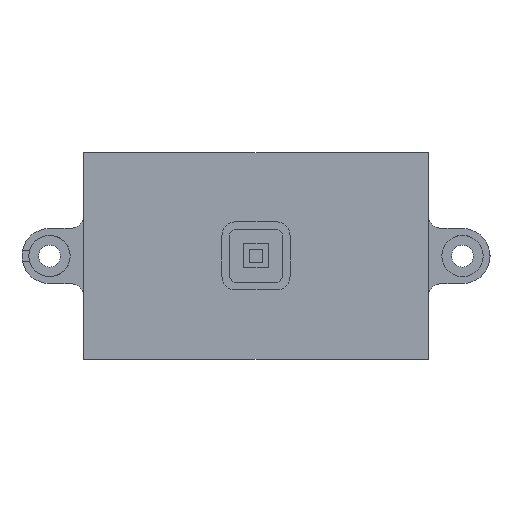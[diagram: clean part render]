
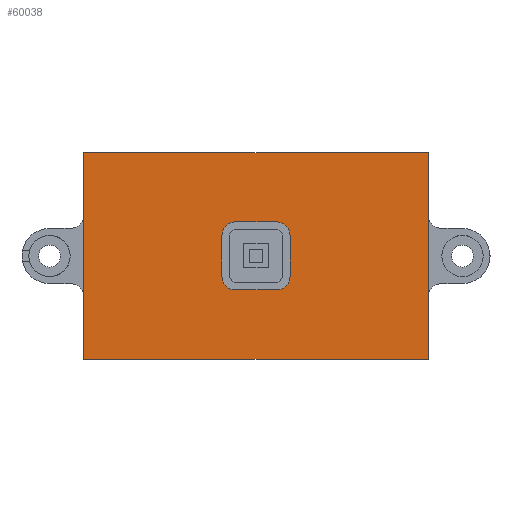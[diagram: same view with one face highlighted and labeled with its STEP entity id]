
A CAD part, top view. The second image highlights one B-rep face of the part: STEP entity #60038.
In plain terms, the highlighted planar face has unit normal (0, 0, 1).
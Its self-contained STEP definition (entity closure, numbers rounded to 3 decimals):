
#2558=FACE_BOUND('',#7841,.T.);
#2922=CIRCLE('',#66886,2.);
#2923=CIRCLE('',#66887,2.);
#2924=CIRCLE('',#66888,2.);
#2925=CIRCLE('',#66889,2.);
#5609=FACE_OUTER_BOUND('',#7840,.T.);
#7840=EDGE_LOOP('',(#46153,#46154,#46155,#46156));
#7841=EDGE_LOOP('',(#46157,#46158,#46159,#46160,#46161,#46162,#46163,#46164));
#10421=LINE('',#88032,#17187);
#10422=LINE('',#88034,#17188);
#10423=LINE('',#88036,#17189);
#10424=LINE('',#88037,#17190);
#10425=LINE('',#88042,#17191);
#10426=LINE('',#88046,#17192);
#10427=LINE('',#88050,#17193);
#10428=LINE('',#88053,#17194);
#17187=VECTOR('',#72065,30.);
#17188=VECTOR('',#72066,50.);
#17189=VECTOR('',#72067,30.);
#17190=VECTOR('',#72068,50.);
#17191=VECTOR('',#72071,5.9);
#17192=VECTOR('',#72074,5.9);
#17193=VECTOR('',#72077,5.9);
#17194=VECTOR('',#72080,5.9);
#24175=VERTEX_POINT('',#88030);
#24176=VERTEX_POINT('',#88031);
#24177=VERTEX_POINT('',#88033);
#24178=VERTEX_POINT('',#88035);
#24179=VERTEX_POINT('',#88038);
#24180=VERTEX_POINT('',#88039);
#24181=VERTEX_POINT('',#88041);
#24182=VERTEX_POINT('',#88043);
#24183=VERTEX_POINT('',#88045);
#24184=VERTEX_POINT('',#88047);
#24185=VERTEX_POINT('',#88049);
#24186=VERTEX_POINT('',#88051);
#35144=EDGE_CURVE('',#24175,#24176,#10421,.T.);
#35145=EDGE_CURVE('',#24176,#24177,#10422,.T.);
#35146=EDGE_CURVE('',#24177,#24178,#10423,.T.);
#35147=EDGE_CURVE('',#24178,#24175,#10424,.T.);
#35148=EDGE_CURVE('',#24179,#24180,#2922,.T.);
#35149=EDGE_CURVE('',#24180,#24181,#10425,.T.);
#35150=EDGE_CURVE('',#24181,#24182,#2923,.T.);
#35151=EDGE_CURVE('',#24182,#24183,#10426,.T.);
#35152=EDGE_CURVE('',#24183,#24184,#2924,.T.);
#35153=EDGE_CURVE('',#24184,#24185,#10427,.T.);
#35154=EDGE_CURVE('',#24185,#24186,#2925,.T.);
#35155=EDGE_CURVE('',#24186,#24179,#10428,.T.);
#46153=ORIENTED_EDGE('',*,*,#35144,.T.);
#46154=ORIENTED_EDGE('',*,*,#35145,.T.);
#46155=ORIENTED_EDGE('',*,*,#35146,.T.);
#46156=ORIENTED_EDGE('',*,*,#35147,.T.);
#46157=ORIENTED_EDGE('',*,*,#35148,.T.);
#46158=ORIENTED_EDGE('',*,*,#35149,.T.);
#46159=ORIENTED_EDGE('',*,*,#35150,.T.);
#46160=ORIENTED_EDGE('',*,*,#35151,.T.);
#46161=ORIENTED_EDGE('',*,*,#35152,.T.);
#46162=ORIENTED_EDGE('',*,*,#35153,.T.);
#46163=ORIENTED_EDGE('',*,*,#35154,.T.);
#46164=ORIENTED_EDGE('',*,*,#35155,.T.);
#56638=PLANE('',#66885);
#60038=ADVANCED_FACE('',(#5609,#2558),#56638,.T.);
#66885=AXIS2_PLACEMENT_3D('',#88029,#72063,#72064);
#66886=AXIS2_PLACEMENT_3D('',#88040,#72069,#72070);
#66887=AXIS2_PLACEMENT_3D('',#88044,#72072,#72073);
#66888=AXIS2_PLACEMENT_3D('',#88048,#72075,#72076);
#66889=AXIS2_PLACEMENT_3D('',#88052,#72078,#72079);
#72063=DIRECTION('center_axis',(0.,0.,1.));
#72064=DIRECTION('ref_axis',(1.,0.,0.));
#72065=DIRECTION('',(0.,-1.,0.));
#72066=DIRECTION('',(1.,0.,0.));
#72067=DIRECTION('',(0.,1.,0.));
#72068=DIRECTION('',(-1.,0.,0.));
#72069=DIRECTION('center_axis',(0.,0.,-1.));
#72070=DIRECTION('ref_axis',(0.,1.,0.));
#72071=DIRECTION('',(0.,-1.,0.));
#72072=DIRECTION('center_axis',(0.,0.,-1.));
#72073=DIRECTION('ref_axis',(1.,0.,0.));
#72074=DIRECTION('',(-1.,0.,0.));
#72075=DIRECTION('center_axis',(0.,0.,-1.));
#72076=DIRECTION('ref_axis',(0.,-1.,0.));
#72077=DIRECTION('',(0.,1.,0.));
#72078=DIRECTION('center_axis',(0.,0.,-1.));
#72079=DIRECTION('ref_axis',(-1.,0.,0.));
#72080=DIRECTION('',(1.,0.,0.));
#88029=CARTESIAN_POINT('Origin',(0.,0.,12.));
#88030=CARTESIAN_POINT('',(-24.708,15.655,12.));
#88031=CARTESIAN_POINT('',(-24.708,-14.345,12.));
#88032=CARTESIAN_POINT('',(-24.708,15.655,12.));
#88033=CARTESIAN_POINT('',(25.292,-14.345,12.));
#88034=CARTESIAN_POINT('',(-24.708,-14.345,12.));
#88035=CARTESIAN_POINT('',(25.292,15.655,12.));
#88036=CARTESIAN_POINT('',(25.292,-14.345,12.));
#88037=CARTESIAN_POINT('',(25.292,15.655,12.));
#88038=CARTESIAN_POINT('',(3.242,5.605,12.));
#88039=CARTESIAN_POINT('',(5.242,3.605,12.));
#88040=CARTESIAN_POINT('Origin',(3.242,3.605,12.));
#88041=CARTESIAN_POINT('',(5.242,-2.295,12.));
#88042=CARTESIAN_POINT('',(5.242,3.605,12.));
#88043=CARTESIAN_POINT('',(3.242,-4.295,12.));
#88044=CARTESIAN_POINT('Origin',(3.242,-2.295,12.));
#88045=CARTESIAN_POINT('',(-2.658,-4.295,12.));
#88046=CARTESIAN_POINT('',(3.242,-4.295,12.));
#88047=CARTESIAN_POINT('',(-4.658,-2.295,12.));
#88048=CARTESIAN_POINT('Origin',(-2.658,-2.295,12.));
#88049=CARTESIAN_POINT('',(-4.658,3.605,12.));
#88050=CARTESIAN_POINT('',(-4.658,-2.295,12.));
#88051=CARTESIAN_POINT('',(-2.658,5.605,12.));
#88052=CARTESIAN_POINT('Origin',(-2.658,3.605,12.));
#88053=CARTESIAN_POINT('',(-2.658,5.605,12.));
